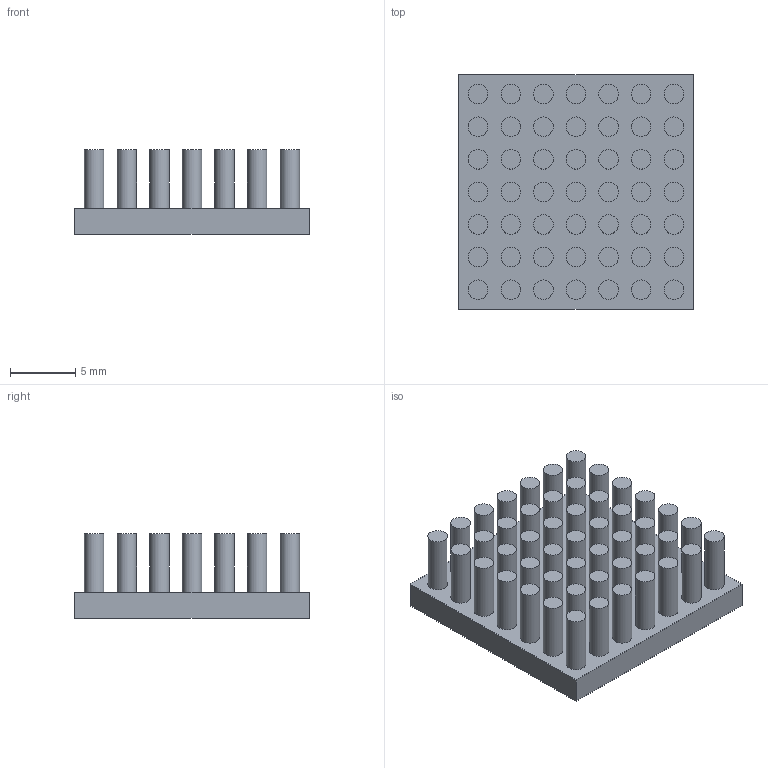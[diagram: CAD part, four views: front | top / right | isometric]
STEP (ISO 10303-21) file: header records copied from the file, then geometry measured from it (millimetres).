
FILE_DESCRIPTION(/* description */ (''),/* implementation_level */ '2;1');
FILE_NAME(/* name */ 'PB1818-B2-H6.5-P49.stp',/* time_stamp */ '2013-12-30T13:39:39+08:00',/* author */ (''),/* organization */ (''),/* preprocessor_version */ 'ST-DEVELOPER v14',/* originating_system */ 'SIEMENS PLM Software NX 8.0',/* authorisation */ '');
FILE_SCHEMA (('CONFIG_CONTROL_DESIGN'));
Length unit declared in the file: millimetre
Products named in the file (1): PB1818-P49
Bounding box: 18 x 18 x 6.5 mm (x, y, z)
Volume: 1037.7 mm3; surface area: 1831.1 mm2
Topology: 1 solids, 1 shells, 104 faces, 159 edges, 106 vertices
Faces by surface type: plane 55, cylinder 49
Full cylindrical faces by diameter (mm): 1.5 x49
Entity records: 2200 total; most frequent: DIRECTION 418, CARTESIAN_POINT 321, ORIENTED_EDGE 220, AXIS2_PLACEMENT_3D 203, EDGE_LOOP 202, FACE_BOUND 148, EDGE_CURVE 110, VERTEX_POINT 106
